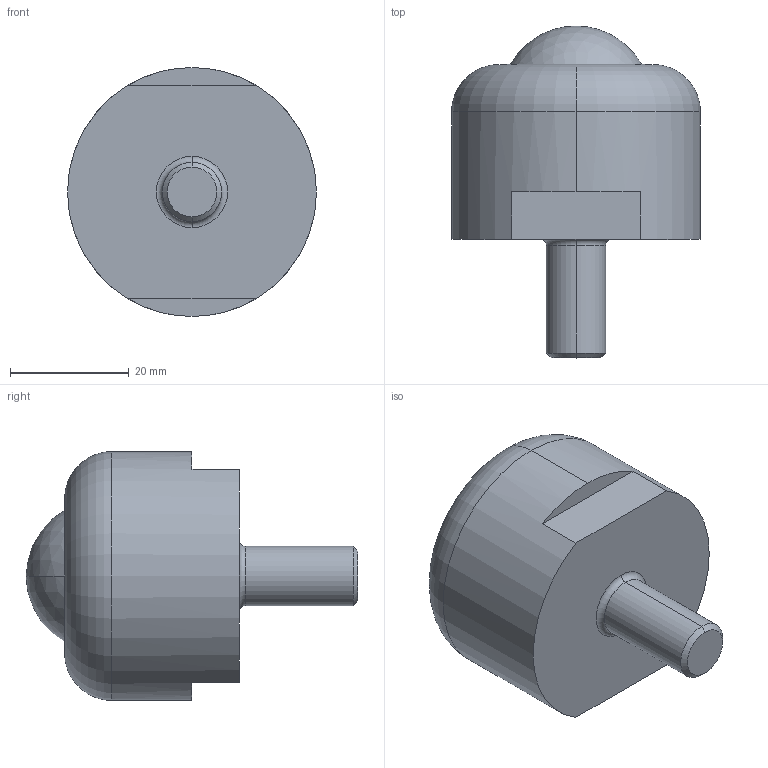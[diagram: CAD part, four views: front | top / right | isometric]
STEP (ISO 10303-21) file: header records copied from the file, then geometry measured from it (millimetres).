
FILE_DESCRIPTION (( 'STEP AP203' ), '1' );
FILE_NAME ('pv120b.STEP', '2016-03-14T02:01:01', ( '' ), ( '' ), 'SwSTEP 2.0', 'SolidWorks 2013', '' );
FILE_SCHEMA (( 'CONFIG_CONTROL_DESIGN' ));
Length unit declared in the file: millimetre
Products named in the file (1): pv120b
Bounding box: 42 x 56 x 42 mm (x, y, z)
Volume: 41476.2 mm3; surface area: 6896.8 mm2
Topology: 1 solids, 1 shells, 19 faces, 40 edges, 25 vertices
Faces by surface type: plane 7, cylinder 4, torus 4, cone 2, sphere 2
Entity records: 597 total; most frequent: DIRECTION 106, CARTESIAN_POINT 85, ORIENTED_EDGE 80, AXIS2_PLACEMENT_3D 46, EDGE_CURVE 40, CIRCLE 26, VERTEX_POINT 25, EDGE_LOOP 21
